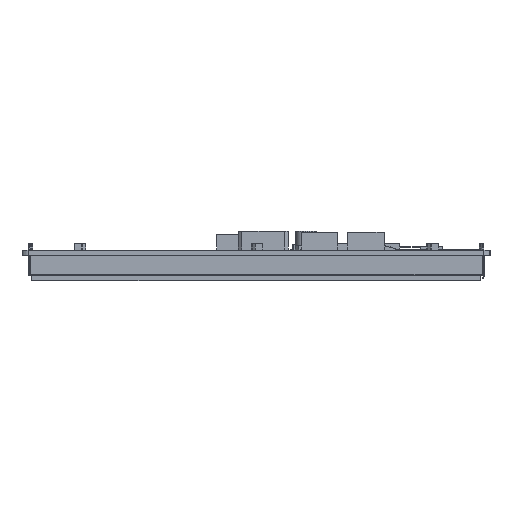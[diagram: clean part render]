
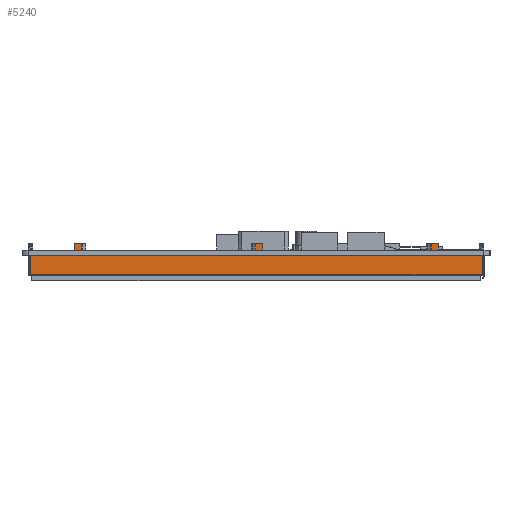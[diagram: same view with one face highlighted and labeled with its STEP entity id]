
A CAD part, left-side view. The second image highlights one B-rep face of the part: STEP entity #5240.
In plain terms, the highlighted planar face has unit normal (-1, 0, 0).
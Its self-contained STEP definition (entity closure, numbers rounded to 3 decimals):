
#5240=ADVANCED_FACE('',(#9944),#7437,.T.);
#7437=PLANE('',#59200);
#9944=FACE_OUTER_BOUND('',#12624,.T.);
#12624=EDGE_LOOP('',(#26202,#26203,#26204,#26205,#26206,#26207,#26208,#26209,
#26210,#26211,#26212,#26213,#26214,#26215,#26216,#26217,#26218,#26219,#26220,
#26221,#26222,#26223));
#26202=ORIENTED_EDGE('',*,*,#39348,.F.);
#26203=ORIENTED_EDGE('',*,*,#39349,.T.);
#26204=ORIENTED_EDGE('',*,*,#39350,.T.);
#26205=ORIENTED_EDGE('',*,*,#39351,.F.);
#26206=ORIENTED_EDGE('',*,*,#39352,.F.);
#26207=ORIENTED_EDGE('',*,*,#39353,.F.);
#26208=ORIENTED_EDGE('',*,*,#39354,.T.);
#26209=ORIENTED_EDGE('',*,*,#39355,.T.);
#26210=ORIENTED_EDGE('',*,*,#39356,.T.);
#26211=ORIENTED_EDGE('',*,*,#39345,.F.);
#26212=ORIENTED_EDGE('',*,*,#39357,.F.);
#26213=ORIENTED_EDGE('',*,*,#39358,.F.);
#26214=ORIENTED_EDGE('',*,*,#39359,.T.);
#26215=ORIENTED_EDGE('',*,*,#39360,.T.);
#26216=ORIENTED_EDGE('',*,*,#39361,.T.);
#26217=ORIENTED_EDGE('',*,*,#39341,.F.);
#26218=ORIENTED_EDGE('',*,*,#39362,.F.);
#26219=ORIENTED_EDGE('',*,*,#39363,.T.);
#26220=ORIENTED_EDGE('',*,*,#39364,.F.);
#26221=ORIENTED_EDGE('',*,*,#39365,.F.);
#26222=ORIENTED_EDGE('',*,*,#39366,.T.);
#26223=ORIENTED_EDGE('',*,*,#39339,.F.);
#32164=VERTEX_POINT('',#87721);
#32166=VERTEX_POINT('',#87725);
#32167=VERTEX_POINT('',#87729);
#32169=VERTEX_POINT('',#87732);
#32171=VERTEX_POINT('',#87738);
#32173=VERTEX_POINT('',#87741);
#32175=VERTEX_POINT('',#87747);
#32176=VERTEX_POINT('',#87749);
#32177=VERTEX_POINT('',#87751);
#32178=VERTEX_POINT('',#87753);
#32179=VERTEX_POINT('',#87755);
#32180=VERTEX_POINT('',#87757);
#32181=VERTEX_POINT('',#87759);
#32182=VERTEX_POINT('',#87761);
#32183=VERTEX_POINT('',#87764);
#32184=VERTEX_POINT('',#87766);
#32185=VERTEX_POINT('',#87768);
#32186=VERTEX_POINT('',#87770);
#32187=VERTEX_POINT('',#87773);
#32188=VERTEX_POINT('',#87775);
#32189=VERTEX_POINT('',#87777);
#32190=VERTEX_POINT('',#87779);
#39339=EDGE_CURVE('',#32166,#32164,#47868,.T.);
#39341=EDGE_CURVE('',#32167,#32169,#47870,.T.);
#39345=EDGE_CURVE('',#32171,#32173,#47874,.T.);
#39348=EDGE_CURVE('',#32175,#32166,#47877,.T.);
#39349=EDGE_CURVE('',#32175,#32176,#47878,.T.);
#39350=EDGE_CURVE('',#32176,#32177,#47879,.T.);
#39351=EDGE_CURVE('',#32178,#32177,#47880,.T.);
#39352=EDGE_CURVE('',#32179,#32178,#47881,.T.);
#39353=EDGE_CURVE('',#32180,#32179,#47882,.T.);
#39354=EDGE_CURVE('',#32180,#32181,#47883,.T.);
#39355=EDGE_CURVE('',#32181,#32182,#47884,.T.);
#39356=EDGE_CURVE('',#32182,#32173,#47885,.T.);
#39357=EDGE_CURVE('',#32183,#32171,#47886,.T.);
#39358=EDGE_CURVE('',#32184,#32183,#47887,.T.);
#39359=EDGE_CURVE('',#32184,#32185,#47888,.T.);
#39360=EDGE_CURVE('',#32185,#32186,#47889,.T.);
#39361=EDGE_CURVE('',#32186,#32169,#47890,.T.);
#39362=EDGE_CURVE('',#32187,#32167,#47891,.T.);
#39363=EDGE_CURVE('',#32187,#32188,#47892,.T.);
#39364=EDGE_CURVE('',#32189,#32188,#47893,.T.);
#39365=EDGE_CURVE('',#32190,#32189,#47894,.T.);
#39366=EDGE_CURVE('',#32190,#32164,#47895,.T.);
#47868=LINE('',#87726,#54542);
#47870=LINE('',#87731,#54544);
#47874=LINE('',#87740,#54548);
#47877=LINE('',#87746,#54551);
#47878=LINE('',#87748,#54552);
#47879=LINE('',#87750,#54553);
#47880=LINE('',#87752,#54554);
#47881=LINE('',#87754,#54555);
#47882=LINE('',#87756,#54556);
#47883=LINE('',#87758,#54557);
#47884=LINE('',#87760,#54558);
#47885=LINE('',#87762,#54559);
#47886=LINE('',#87763,#54560);
#47887=LINE('',#87765,#54561);
#47888=LINE('',#87767,#54562);
#47889=LINE('',#87769,#54563);
#47890=LINE('',#87771,#54564);
#47891=LINE('',#87772,#54565);
#47892=LINE('',#87774,#54566);
#47893=LINE('',#87776,#54567);
#47894=LINE('',#87778,#54568);
#47895=LINE('',#87780,#54569);
#54542=VECTOR('',#71822,1.);
#54544=VECTOR('',#71826,1.);
#54548=VECTOR('',#71832,1.);
#54551=VECTOR('',#71837,1.);
#54552=VECTOR('',#71838,1.);
#54553=VECTOR('',#71839,1.);
#54554=VECTOR('',#71840,1.);
#54555=VECTOR('',#71841,1.);
#54556=VECTOR('',#71842,1.);
#54557=VECTOR('',#71843,1.);
#54558=VECTOR('',#71844,1.);
#54559=VECTOR('',#71845,1.);
#54560=VECTOR('',#71846,1.);
#54561=VECTOR('',#71847,1.);
#54562=VECTOR('',#71848,1.);
#54563=VECTOR('',#71849,1.);
#54564=VECTOR('',#71850,1.);
#54565=VECTOR('',#71851,1.);
#54566=VECTOR('',#71852,1.);
#54567=VECTOR('',#71853,1.);
#54568=VECTOR('',#71854,1.);
#54569=VECTOR('',#71855,1.);
#59200=AXIS2_PLACEMENT_3D('',#87781,#71856,#71857);
#71822=DIRECTION('',(0.,-1.,0.));
#71826=DIRECTION('',(0.,-1.,0.));
#71832=DIRECTION('',(0.,-1.,0.));
#71837=DIRECTION('',(0.,0.,1.));
#71838=DIRECTION('',(0.,-1.,0.));
#71839=DIRECTION('',(0.,0.,1.));
#71840=DIRECTION('',(0.,-1.,0.));
#71841=DIRECTION('',(0.,0.,-1.));
#71842=DIRECTION('',(0.,-1.,0.));
#71843=DIRECTION('',(0.,0.,-1.));
#71844=DIRECTION('',(0.,-1.,0.));
#71845=DIRECTION('',(0.,0.,-1.));
#71846=DIRECTION('',(0.,0.,-1.));
#71847=DIRECTION('',(0.,-1.,0.));
#71848=DIRECTION('',(0.,0.,-1.));
#71849=DIRECTION('',(0.,-1.,0.));
#71850=DIRECTION('',(0.,0.,-1.));
#71851=DIRECTION('',(0.,0.,-1.));
#71852=DIRECTION('',(0.,-1.,0.));
#71853=DIRECTION('',(0.,0.,-1.));
#71854=DIRECTION('',(0.,-1.,0.));
#71855=DIRECTION('',(0.,0.,-1.));
#71856=DIRECTION('',(-1.,0.,0.));
#71857=DIRECTION('',(0.,-1.,0.));
#87721=CARTESIAN_POINT('',(1013.555,86.184,-1.6));
#87725=CARTESIAN_POINT('',(1013.555,100.243,-1.6));
#87726=CARTESIAN_POINT('',(1013.555,100.243,-1.6));
#87729=CARTESIAN_POINT('',(1013.555,84.184,-1.6));
#87731=CARTESIAN_POINT('',(1013.555,100.243,-1.6));
#87732=CARTESIAN_POINT('',(1013.555,28.708,-1.6));
#87738=CARTESIAN_POINT('',(1013.555,26.708,-1.6));
#87740=CARTESIAN_POINT('',(1013.555,100.243,-1.6));
#87741=CARTESIAN_POINT('',(1013.555,-26.802,-1.6));
#87746=CARTESIAN_POINT('',(1013.555,100.243,-8.1));
#87747=CARTESIAN_POINT('',(1013.555,100.243,-7.7));
#87748=CARTESIAN_POINT('',(1013.555,-42.757,-7.7));
#87749=CARTESIAN_POINT('',(1013.555,-42.757,-7.7));
#87750=CARTESIAN_POINT('',(1013.555,-42.757,-8.1));
#87751=CARTESIAN_POINT('',(1013.555,-42.757,-1.6));
#87752=CARTESIAN_POINT('',(1013.555,100.243,-1.6));
#87753=CARTESIAN_POINT('',(1013.555,-28.802,-1.6));
#87754=CARTESIAN_POINT('',(1013.555,-28.802,2.));
#87755=CARTESIAN_POINT('',(1013.555,-28.802,2.));
#87756=CARTESIAN_POINT('',(1013.555,-26.575,2.));
#87757=CARTESIAN_POINT('',(1013.555,-26.575,2.));
#87758=CARTESIAN_POINT('',(1013.555,-26.575,2.));
#87759=CARTESIAN_POINT('',(1013.555,-26.575,0.));
#87760=CARTESIAN_POINT('',(1013.555,-26.575,0.));
#87761=CARTESIAN_POINT('',(1013.555,-26.802,0.));
#87762=CARTESIAN_POINT('',(1013.555,-26.802,0.));
#87763=CARTESIAN_POINT('',(1013.555,26.708,0.));
#87764=CARTESIAN_POINT('',(1013.555,26.708,2.));
#87765=CARTESIAN_POINT('',(1013.555,28.935,2.));
#87766=CARTESIAN_POINT('',(1013.555,28.935,2.));
#87767=CARTESIAN_POINT('',(1013.555,28.935,2.));
#87768=CARTESIAN_POINT('',(1013.555,28.935,0.));
#87769=CARTESIAN_POINT('',(1013.555,28.935,0.));
#87770=CARTESIAN_POINT('',(1013.555,28.708,0.));
#87771=CARTESIAN_POINT('',(1013.555,28.708,0.));
#87772=CARTESIAN_POINT('',(1013.555,84.184,0.));
#87773=CARTESIAN_POINT('',(1013.555,84.184,0.));
#87774=CARTESIAN_POINT('',(1013.555,86.184,0.));
#87775=CARTESIAN_POINT('',(1013.555,83.957,0.));
#87776=CARTESIAN_POINT('',(1013.555,83.957,2.));
#87777=CARTESIAN_POINT('',(1013.555,83.957,2.));
#87778=CARTESIAN_POINT('',(1013.555,86.184,2.));
#87779=CARTESIAN_POINT('',(1013.555,86.184,2.));
#87780=CARTESIAN_POINT('',(1013.555,86.184,0.));
#87781=CARTESIAN_POINT('',(1013.555,100.243,-8.1));
